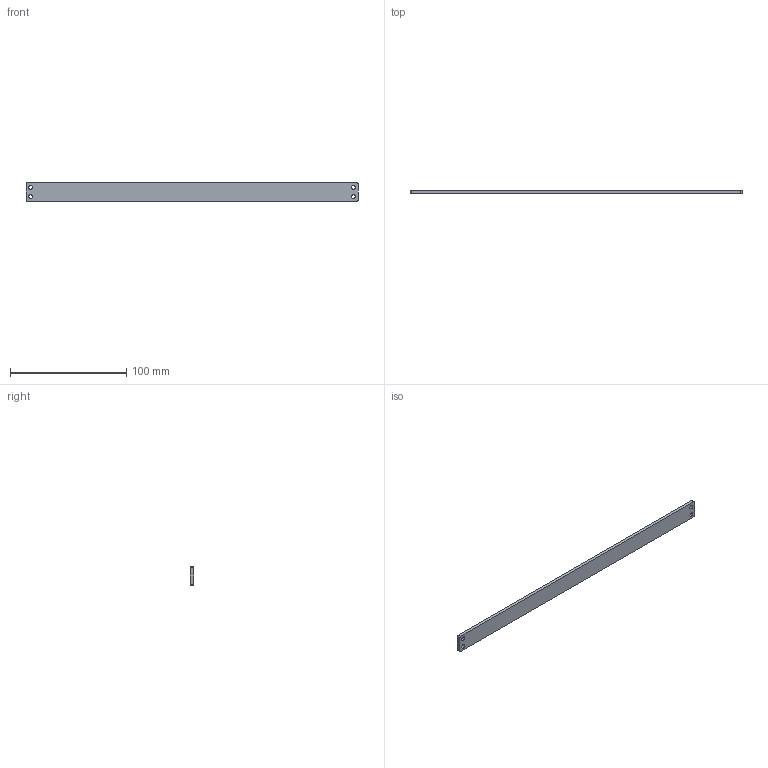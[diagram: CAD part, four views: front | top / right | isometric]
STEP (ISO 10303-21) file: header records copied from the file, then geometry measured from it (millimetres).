
FILE_DESCRIPTION(/* description */ (''),/* implementation_level */ '2;1');
FILE_NAME(/* name */ 'SHELF (2).step',/* time_stamp */ '2024-02-28T16:45:10Z',/* author */ (''),/* organization */ (''),/* preprocessor_version */ 'ST-DEVELOPER v20',/* originating_system */ 'Autodesk Translation Framework v12.20.1.177',/* authorisation */ '');
FILE_SCHEMA (('AUTOMOTIVE_DESIGN { 1 0 10303 214 3 1 1 }'));
Length unit declared in the file: millimetre
Products named in the file (1): SHELF (2)
Bounding box: 286 x 3 x 16 mm (x, y, z)
Volume: 13610 mm3; surface area: 11012.1 mm2
Topology: 1 solids, 1 shells, 14 faces, 36 edges, 24 vertices
Faces by surface type: plane 6, cylinder 4, bspline 4
Full cylindrical faces by diameter (mm): 3.5 x4
Entity records: 668 total; most frequent: CARTESIAN_POINT 287, ORIENTED_EDGE 72, DIRECTION 58, EDGE_CURVE 36, VERTEX_POINT 24, EDGE_LOOP 22, LINE 20, VECTOR 20
